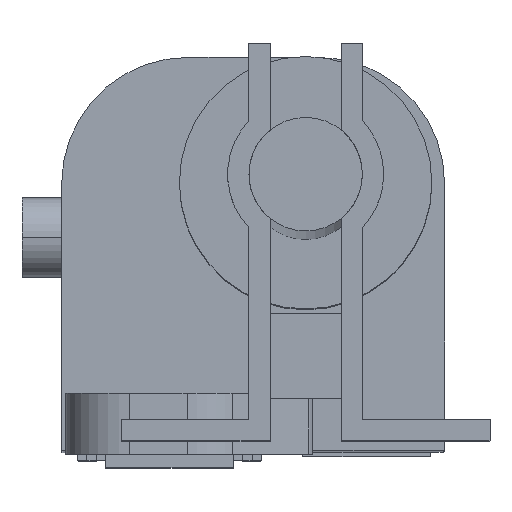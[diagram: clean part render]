
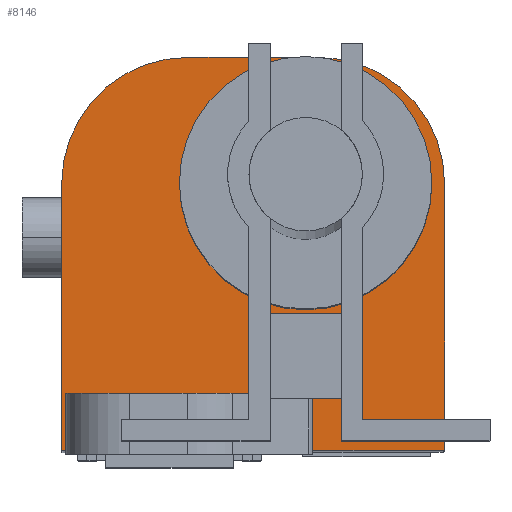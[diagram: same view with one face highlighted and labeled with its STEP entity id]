
A CAD part, top view. The second image highlights one B-rep face of the part: STEP entity #8146.
In plain terms, the highlighted planar face has unit normal (0, 0, 1).
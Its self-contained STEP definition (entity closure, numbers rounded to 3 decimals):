
#3175 = CARTESIAN_POINT ( 'NONE',  ( 7., 18.8, 0. ) ) ;
#3235 = DIRECTION ( 'NONE',  ( 1., 0., 0. ) ) ;
#3236 = DIRECTION ( 'NONE',  ( 0., 0., 1. ) ) ;
#3237 = CARTESIAN_POINT ( 'NONE',  ( 0., 18.8, 0. ) ) ;
#3238 = AXIS2_PLACEMENT_3D ( 'NONE', #3237, #3236, #3235 ) ;
#3239 = CIRCLE ( 'NONE', #3238, 7. ) ;
#3473 = CARTESIAN_POINT ( 'NONE',  ( -17.2, 18.8, 0. ) ) ;
#3483 = CARTESIAN_POINT ( 'NONE',  ( -17.2, 0., 0. ) ) ;
#3493 = DIRECTION ( 'NONE',  ( 0., -1., 0. ) ) ;
#3494 = VECTOR ( 'NONE', #3493, 1000. ) ;
#3495 = CARTESIAN_POINT ( 'NONE',  ( -17.2, 0., 0. ) ) ;
#3496 = LINE ( 'NONE', #3495, #3494 ) ;
#3816 = CARTESIAN_POINT ( 'NONE',  ( 0.5, 4., 0. ) ) ;
#4753 = LINE ( 'NONE', #4817, #4816 ) ;
#4814 = CARTESIAN_POINT ( 'NONE',  ( -16.9, 4., 0. ) ) ;
#4815 = DIRECTION ( 'NONE',  ( -1., 0., 0. ) ) ;
#4816 = VECTOR ( 'NONE', #4815, 1000. ) ;
#4817 = CARTESIAN_POINT ( 'NONE',  ( -16.9, 4., 0. ) ) ;
#4822 = DIRECTION ( 'NONE',  ( 0., -1., 0. ) ) ;
#4823 = VECTOR ( 'NONE', #4822, 1000. ) ;
#4824 = CARTESIAN_POINT ( 'NONE',  ( 0.5, 4., 0. ) ) ;
#4825 = LINE ( 'NONE', #4824, #4823 ) ;
#4826 = CARTESIAN_POINT ( 'NONE',  ( 0.5, 0., 0. ) ) ;
#5063 = CARTESIAN_POINT ( 'NONE',  ( 9.8, 0., 0. ) ) ;
#5104 = CARTESIAN_POINT ( 'NONE',  ( -8.3, 27.7, 0. ) ) ;
#5105 = CARTESIAN_POINT ( 'NONE',  ( 0.9, 27.7, 0. ) ) ;
#5106 = DIRECTION ( 'NONE',  ( -1., 0., 0. ) ) ;
#5107 = VECTOR ( 'NONE', #5106, 1000. ) ;
#5108 = CARTESIAN_POINT ( 'NONE',  ( -17.2, 27.7, 0. ) ) ;
#5109 = LINE ( 'NONE', #5108, #5107 ) ;
#5122 = FACE_OUTER_BOUND ( 'NONE', #8151, .T. ) ;
#5123 = FACE_BOUND ( 'NONE', #8147, .T. ) ;
#5124 = DIRECTION ( 'NONE',  ( 1., 0., 0. ) ) ;
#5125 = VECTOR ( 'NONE', #5124, 1000. ) ;
#5126 = CARTESIAN_POINT ( 'NONE',  ( -17.2, 0., 0. ) ) ;
#5127 = LINE ( 'NONE', #5126, #5125 ) ;
#5128 = PLANE ( 'NONE',  #5186 ) ;
#5129 = CARTESIAN_POINT ( 'NONE',  ( -16.9, 0., 0. ) ) ;
#5134 = DIRECTION ( 'NONE',  ( 0., -1., 0. ) ) ;
#5135 = VECTOR ( 'NONE', #5134, 1000. ) ;
#5136 = CARTESIAN_POINT ( 'NONE',  ( -16.9, 4., 0. ) ) ;
#5137 = LINE ( 'NONE', #5136, #5135 ) ;
#5138 = DIRECTION ( 'NONE',  ( -1., 0., 0. ) ) ;
#5139 = DIRECTION ( 'NONE',  ( 0., 0., 1. ) ) ;
#5140 = CARTESIAN_POINT ( 'NONE',  ( -8.3, 18.8, 0. ) ) ;
#5141 = AXIS2_PLACEMENT_3D ( 'NONE', #5140, #5139, #5138 ) ;
#5142 = CIRCLE ( 'NONE', #5141, 8.9 ) ;
#5143 = DIRECTION ( 'NONE',  ( -1., 0., 0. ) ) ;
#5144 = DIRECTION ( 'NONE',  ( 0., 0., 1. ) ) ;
#5145 = CARTESIAN_POINT ( 'NONE',  ( 0.9, 18.8, 0. ) ) ;
#5146 = AXIS2_PLACEMENT_3D ( 'NONE', #5145, #5144, #5143 ) ;
#5147 = CIRCLE ( 'NONE', #5146, 8.9 ) ;
#5155 = CARTESIAN_POINT ( 'NONE',  ( 9.8, 18.8, 0. ) ) ;
#5161 = DIRECTION ( 'NONE',  ( 1., 0., 0. ) ) ;
#5162 = VECTOR ( 'NONE', #5161, 1000. ) ;
#5163 = CARTESIAN_POINT ( 'NONE',  ( -17.2, 0., 0. ) ) ;
#5164 = LINE ( 'NONE', #5163, #5162 ) ;
#5178 = DIRECTION ( 'NONE',  ( 1., 0., 0. ) ) ;
#5179 = DIRECTION ( 'NONE',  ( 0., 0., 1. ) ) ;
#5180 = CARTESIAN_POINT ( 'NONE',  ( 0., 18.8, 0. ) ) ;
#5181 = AXIS2_PLACEMENT_3D ( 'NONE', #5180, #5179, #5178 ) ;
#5182 = CIRCLE ( 'NONE', #5181, 7. ) ;
#5183 = DIRECTION ( 'NONE',  ( -1., 0., 0. ) ) ;
#5184 = DIRECTION ( 'NONE',  ( 0., 0., -1. ) ) ;
#5185 = CARTESIAN_POINT ( 'NONE',  ( -17.2, 0., 0. ) ) ;
#5186 = AXIS2_PLACEMENT_3D ( 'NONE', #5185, #5184, #5183 ) ;
#5216 = DIRECTION ( 'NONE',  ( 0., 1., 0. ) ) ;
#5217 = VECTOR ( 'NONE', #5216, 1000. ) ;
#5218 = CARTESIAN_POINT ( 'NONE',  ( 9.8, 0., 0. ) ) ;
#5219 = LINE ( 'NONE', #5218, #5217 ) ;
#6819 = CARTESIAN_POINT ( 'NONE',  ( -7., 18.8, 0. ) ) ;
#7194 = VERTEX_POINT ( 'NONE', #3175 ) ;
#7195 = EDGE_CURVE ( 'NONE', #9166, #7194, #3239, .T. ) ;
#7330 = EDGE_CURVE ( 'NONE', #7338, #7331, #3496, .T. ) ;
#7331 = VERTEX_POINT ( 'NONE', #3483 ) ;
#7338 = VERTEX_POINT ( 'NONE', #3473 ) ;
#7544 = VERTEX_POINT ( 'NONE', #3816 ) ;
#7943 = EDGE_CURVE ( 'NONE', #7544, #7944, #4753, .T. ) ;
#7944 = VERTEX_POINT ( 'NONE', #4814 ) ;
#7973 = VERTEX_POINT ( 'NONE', #4826 ) ;
#7975 = EDGE_CURVE ( 'NONE', #7544, #7973, #4825, .T. ) ;
#8102 = VERTEX_POINT ( 'NONE', #5063 ) ;
#8114 = EDGE_CURVE ( 'NONE', #8115, #8116, #5109, .T. ) ;
#8115 = VERTEX_POINT ( 'NONE', #5105 ) ;
#8116 = VERTEX_POINT ( 'NONE', #5104 ) ;
#8129 = ORIENTED_EDGE ( 'NONE', *, *, #8130, .T. ) ;
#8130 = EDGE_CURVE ( 'NONE', #8168, #8115, #5147, .T. ) ;
#8131 = ORIENTED_EDGE ( 'NONE', *, *, #8114, .T. ) ;
#8132 = ORIENTED_EDGE ( 'NONE', *, *, #8133, .T. ) ;
#8133 = EDGE_CURVE ( 'NONE', #8116, #7338, #5142, .T. ) ;
#8134 = ORIENTED_EDGE ( 'NONE', *, *, #7330, .T. ) ;
#8135 = ORIENTED_EDGE ( 'NONE', *, *, #8144, .T. ) ;
#8136 = ORIENTED_EDGE ( 'NONE', *, *, #8137, .F. ) ;
#8137 = EDGE_CURVE ( 'NONE', #7944, #8142, #5137, .T. ) ;
#8138 = ORIENTED_EDGE ( 'NONE', *, *, #7943, .F. ) ;
#8139 = ORIENTED_EDGE ( 'NONE', *, *, #7975, .T. ) ;
#8142 = VERTEX_POINT ( 'NONE', #5129 ) ;
#8144 = EDGE_CURVE ( 'NONE', #7331, #8142, #5127, .T. ) ;
#8146 = ADVANCED_FACE ( 'NONE', ( #5123, #5122 ), #5128, .F. ) ;
#8147 = EDGE_LOOP ( 'NONE', ( #8148, #8150 ) ) ;
#8148 = ORIENTED_EDGE ( 'NONE', *, *, #8149, .F. ) ;
#8149 = EDGE_CURVE ( 'NONE', #7194, #9166, #5182, .T. ) ;
#8150 = ORIENTED_EDGE ( 'NONE', *, *, #7195, .F. ) ;
#8151 = EDGE_LOOP ( 'NONE', ( #8152, #8129, #8131, #8132, #8134, #8135, #8136, #8138, #8139, #8199 ) ) ;
#8152 = ORIENTED_EDGE ( 'NONE', *, *, #8170, .T. ) ;
#8164 = EDGE_CURVE ( 'NONE', #7973, #8102, #5164, .T. ) ;
#8168 = VERTEX_POINT ( 'NONE', #5155 ) ;
#8170 = EDGE_CURVE ( 'NONE', #8102, #8168, #5219, .T. ) ;
#8199 = ORIENTED_EDGE ( 'NONE', *, *, #8164, .T. ) ;
#9166 = VERTEX_POINT ( 'NONE', #6819 ) ;
